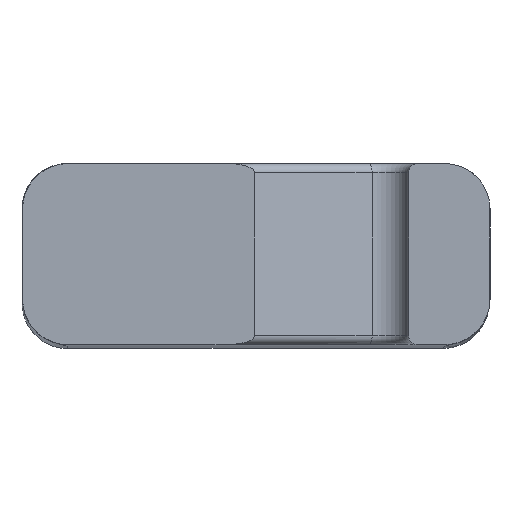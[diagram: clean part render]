
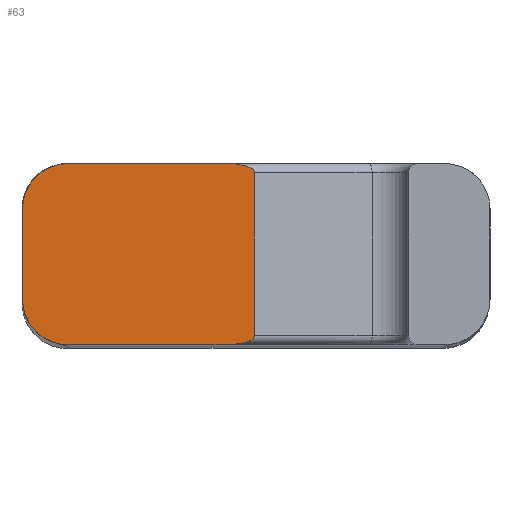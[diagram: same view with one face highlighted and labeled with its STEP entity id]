
A CAD part, left-side view. The second image highlights one B-rep face of the part: STEP entity #63.
In plain terms, the highlighted planar face has unit normal (-1, 0, 0).
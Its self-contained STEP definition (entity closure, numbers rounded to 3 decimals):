
#63 = ADVANCED_FACE ( 'NONE', ( #2520 ), #1062, .F. ) ;
#88 = CARTESIAN_POINT ( 'NONE',  ( 44.118, -6.605, -10. ) ) ;
#96 = CARTESIAN_POINT ( 'NONE',  ( 44.118, -4.893, 10. ) ) ;
#112 = EDGE_CURVE ( 'NONE', #1748, #601, #2343, .T. ) ;
#147 = LINE ( 'NONE', #2128, #214 ) ;
#214 = VECTOR ( 'NONE', #1006, 1000. ) ;
#232 =( BOUNDED_CURVE ( )  B_SPLINE_CURVE ( 3, ( #497, #2808, #3159, #1636 ),
 .UNSPECIFIED., .F., .F. ) 
 B_SPLINE_CURVE_WITH_KNOTS ( ( 4, 4 ),
 ( 3.142, 4.712 ),
 .UNSPECIFIED. ) 
 CURVE ( )  GEOMETRIC_REPRESENTATION_ITEM ( )  RATIONAL_B_SPLINE_CURVE ( ( 1., 0.805, 0.805, 1. ) ) 
 REPRESENTATION_ITEM ( '' )  );
#266 = EDGE_CURVE ( 'NONE', #3095, #2936, #147, .T. ) ;
#365 = EDGE_CURVE ( 'NONE', #816, #601, #232, .T. ) ;
#395 = ORIENTED_EDGE ( 'NONE', *, *, #112, .F. ) ;
#422 = ORIENTED_EDGE ( 'NONE', *, *, #2828, .T. ) ;
#497 = CARTESIAN_POINT ( 'NONE',  ( 44.118, -7.817, 9. ) ) ;
#546 = LINE ( 'NONE', #2440, #828 ) ;
#567 = CARTESIAN_POINT ( 'NONE',  ( 44.118, 60.689, -29.064 ) ) ;
#601 = VERTEX_POINT ( 'NONE', #96 ) ;
#700 = CARTESIAN_POINT ( 'NONE',  ( 44.118, 17.807, -29.063 ) ) ;
#723 = ORIENTED_EDGE ( 'NONE', *, *, #1781, .T. ) ;
#742 = CARTESIAN_POINT ( 'NONE',  ( 44.118, -7.817, 9. ) ) ;
#774 = EDGE_CURVE ( 'NONE', #816, #3713, #546, .T. ) ;
#816 = VERTEX_POINT ( 'NONE', #742 ) ;
#828 = VECTOR ( 'NONE', #3318, 1000. ) ;
#857 =( BOUNDED_CURVE ( )  B_SPLINE_CURVE ( 3, ( #3302, #88, #3325, #2378 ),
 .UNSPECIFIED., .F., .T. ) 
 B_SPLINE_CURVE_WITH_KNOTS ( ( 4, 4 ),
 ( 4.712, 6.283 ),
 .UNSPECIFIED. ) 
 CURVE ( )  GEOMETRIC_REPRESENTATION_ITEM ( )  RATIONAL_B_SPLINE_CURVE ( ( 1., 0.805, 0.805, 1. ) ) 
 REPRESENTATION_ITEM ( '' )  );
#862 = VERTEX_POINT ( 'NONE', #2899 ) ;
#927 = DIRECTION ( 'NONE',  ( 1., 0., 0. ) ) ;
#974 = AXIS2_PLACEMENT_3D ( 'NONE', #3083, #3101, #2813 ) ;
#1006 = DIRECTION ( 'NONE',  ( 0., 1., 0. ) ) ;
#1062 = PLANE ( 'NONE',  #3417 ) ;
#1066 = CARTESIAN_POINT ( 'NONE',  ( 44.118, 12.807, -5. ) ) ;
#1102 = EDGE_LOOP ( 'NONE', ( #723, #2183, #2243, #2373, #422, #2135, #1262, #395 ) ) ;
#1146 = AXIS2_PLACEMENT_3D ( 'NONE', #1066, #1359, #3778 ) ;
#1154 = VERTEX_POINT ( 'NONE', #1261 ) ;
#1180 = CARTESIAN_POINT ( 'NONE',  ( 44.118, 35., 10. ) ) ;
#1242 = CARTESIAN_POINT ( 'NONE',  ( 44.118, 12.807, 10. ) ) ;
#1261 = CARTESIAN_POINT ( 'NONE',  ( 44.118, 17.807, -5. ) ) ;
#1262 = ORIENTED_EDGE ( 'NONE', *, *, #365, .T. ) ;
#1359 = DIRECTION ( 'NONE',  ( -1., 0., 0. ) ) ;
#1464 = DIRECTION ( 'NONE',  ( 0., -1., 0. ) ) ;
#1636 = CARTESIAN_POINT ( 'NONE',  ( 44.118, -4.893, 10. ) ) ;
#1748 = VERTEX_POINT ( 'NONE', #1242 ) ;
#1781 = EDGE_CURVE ( 'NONE', #1748, #862, #2939, .T. ) ;
#1920 = CARTESIAN_POINT ( 'NONE',  ( 44.118, 12.807, -10. ) ) ;
#1941 = CARTESIAN_POINT ( 'NONE',  ( 44.118, -4.893, -10. ) ) ;
#2123 = VECTOR ( 'NONE', #2681, 1000. ) ;
#2128 = CARTESIAN_POINT ( 'NONE',  ( 44.118, 35., -10. ) ) ;
#2135 = ORIENTED_EDGE ( 'NONE', *, *, #774, .F. ) ;
#2183 = ORIENTED_EDGE ( 'NONE', *, *, #2292, .T. ) ;
#2243 = ORIENTED_EDGE ( 'NONE', *, *, #2587, .T. ) ;
#2292 = EDGE_CURVE ( 'NONE', #862, #1154, #2375, .T. ) ;
#2343 = LINE ( 'NONE', #1180, #2367 ) ;
#2367 = VECTOR ( 'NONE', #1464, 1000. ) ;
#2373 = ORIENTED_EDGE ( 'NONE', *, *, #266, .F. ) ;
#2375 = LINE ( 'NONE', #700, #2123 ) ;
#2378 = CARTESIAN_POINT ( 'NONE',  ( 44.118, -7.817, -9. ) ) ;
#2440 = CARTESIAN_POINT ( 'NONE',  ( 44.118, -7.817, -27.656 ) ) ;
#2520 = FACE_OUTER_BOUND ( 'NONE', #1102, .T. ) ;
#2578 = CARTESIAN_POINT ( 'NONE',  ( 44.118, -7.817, -9. ) ) ;
#2587 = EDGE_CURVE ( 'NONE', #1154, #2936, #3124, .T. ) ;
#2681 = DIRECTION ( 'NONE',  ( 0., 0., -1. ) ) ;
#2808 = CARTESIAN_POINT ( 'NONE',  ( 44.118, -7.817, 9.586 ) ) ;
#2813 = DIRECTION ( 'NONE',  ( 0., 1., 0. ) ) ;
#2828 = EDGE_CURVE ( 'NONE', #3095, #3713, #857, .T. ) ;
#2899 = CARTESIAN_POINT ( 'NONE',  ( 44.118, 17.807, 5. ) ) ;
#2936 = VERTEX_POINT ( 'NONE', #1920 ) ;
#2939 = CIRCLE ( 'NONE', #974, 5. ) ;
#3083 = CARTESIAN_POINT ( 'NONE',  ( 44.118, 12.807, 5. ) ) ;
#3095 = VERTEX_POINT ( 'NONE', #1941 ) ;
#3101 = DIRECTION ( 'NONE',  ( -1., 0., 0. ) ) ;
#3124 = CIRCLE ( 'NONE', #1146, 5. ) ;
#3159 = CARTESIAN_POINT ( 'NONE',  ( 44.118, -6.605, 10. ) ) ;
#3302 = CARTESIAN_POINT ( 'NONE',  ( 44.118, -4.893, -10. ) ) ;
#3318 = DIRECTION ( 'NONE',  ( 0., 0., -1. ) ) ;
#3325 = CARTESIAN_POINT ( 'NONE',  ( 44.118, -7.817, -9.586 ) ) ;
#3417 = AXIS2_PLACEMENT_3D ( 'NONE', #567, #927, #3806 ) ;
#3713 = VERTEX_POINT ( 'NONE', #2578 ) ;
#3778 = DIRECTION ( 'NONE',  ( 0., 1., 0. ) ) ;
#3806 = DIRECTION ( 'NONE',  ( 0., 1., 0. ) ) ;
